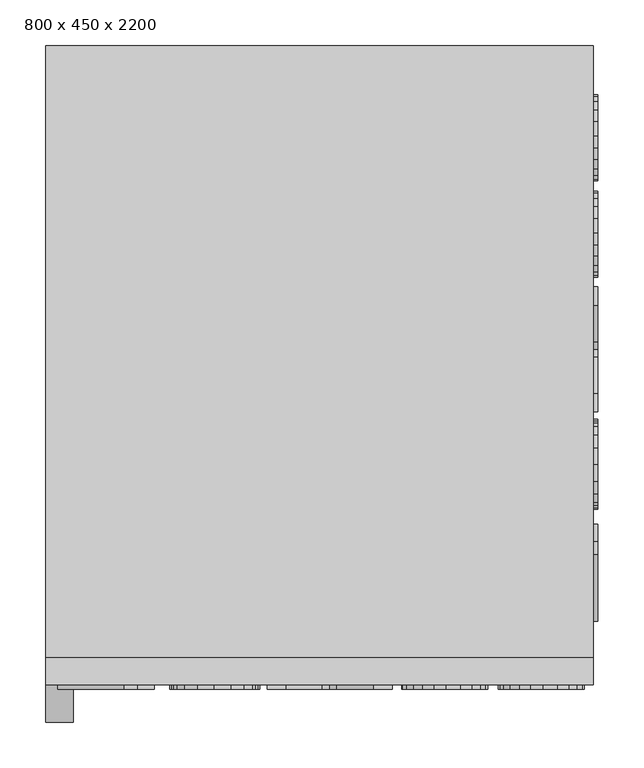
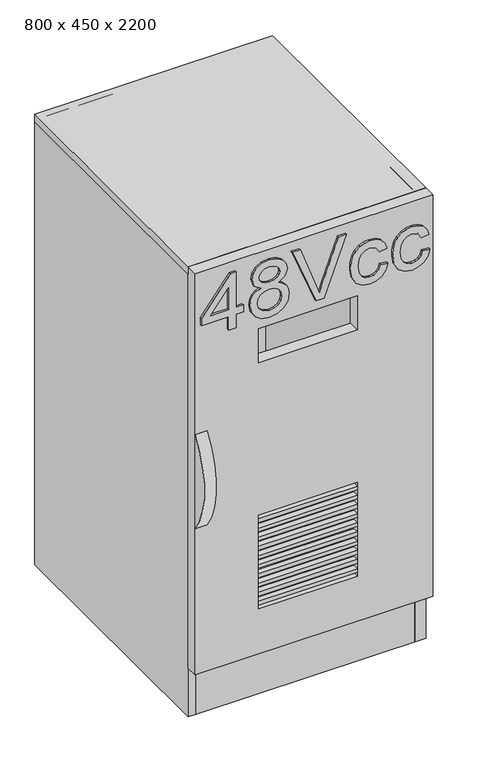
"""IFC4 building model written with IfcOpenShell, lengths in millimetres: furniture geometry, Quadre bateries 48V : 800 x 450 x 2200."""

import ifcopenshell
import ifcopenshell.guid

model = None  # the IFC model being written
_history = None  # IfcOwnerHistory: only IFC2X3 demands one
_inside = {}  # id of a spatial element -> (the spatial element, [elements in it])
_under = {}  # id of a project, library or spatial element -> (it, [spatial elements below it])
_declared = {}  # id of a project -> (the project, [libraries it declares])
_typed = {}  # id of a type object -> (the type object, [elements of that type])
_made_of = {}  # id of a material, layer set ... -> (it, [elements and type objects made of it])


def new_model(schema):
    """Start an empty IFC model of exactly this schema.

    Asked for "IFC4X3", IfcOpenShell would pick the latest addendum, in which some entities
    have other attributes; the version numbers below select the first issue.
    IFC2X3 requires an IfcOwnerHistory on every rooted entity: one is made here for all.
    """
    global model, _history
    if schema == "IFC4X3":
        model = ifcopenshell.file(schema_version=(4, 3, 0, 0))
    else:
        model = ifcopenshell.file(schema=schema)
    _inside.clear()
    _under.clear()
    _declared.clear()
    _typed.clear()
    _made_of.clear()
    _history = None
    if model.schema == "IFC2X3":
        org = make("IfcOrganization", Name="unknown")
        user = make(
            "IfcPersonAndOrganization",
            ThePerson=make("IfcPerson", FamilyName="unknown"),
            TheOrganization=org,
        )
        app = make(
            "IfcApplication",
            ApplicationDeveloper=org,
            Version="unknown",
            ApplicationFullName="unknown",
            ApplicationIdentifier="unknown",
        )
        _history = make(
            "IfcOwnerHistory",
            OwningUser=user,
            OwningApplication=app,
            ChangeAction="ADDED",
            CreationDate=0,
        )
    return model


def make(cls, **values):
    """One entity of the class cls with the attributes given. An attribute that is None is left unset."""
    return model.create_entity(
        cls, **{name: value for name, value in values.items() if value is not None}
    )


def rooted(cls, **values):
    """An entity with a GlobalId (a new one), such as an element, a storey or a relation."""
    return make(cls, GlobalId=ifcopenshell.guid.new(), OwnerHistory=_history, **values)


def si_unit(unit_type, name, prefix=None):
    """IfcSIUnit, for example si_unit("LENGTHUNIT", "METRE", prefix="MILLI")."""
    return make("IfcSIUnit", UnitType=unit_type, Prefix=prefix, Name=name)


def assignment(units):
    """IfcUnitAssignment: the units of a project."""
    return None if units is None else make("IfcUnitAssignment", Units=units)


def point(xyz):
    """IfcCartesianPoint."""
    return None if xyz is None else make("IfcCartesianPoint", Coordinates=xyz)


def direction(xyz):
    """IfcDirection."""
    return None if xyz is None else make("IfcDirection", DirectionRatios=xyz)


def frame(location, z_axis=None, x_axis=None):
    """IfcAxis2Placement3D, a coordinate frame: its origin and axes. An axis left out is left unset."""
    return make(
        "IfcAxis2Placement3D",
        Location=point(location),
        Axis=direction(z_axis),
        RefDirection=direction(x_axis),
    )


def frame_2d(location, x_axis=None):
    """IfcAxis2Placement2D, a coordinate frame in the plane: its origin and x axis."""
    return make(
        "IfcAxis2Placement2D", Location=point(location), RefDirection=direction(x_axis)
    )


def origin():
    """The frame at (0, 0, 0) with its axes left unset."""
    return frame((0.0, 0.0, 0.0))


def origin_with_axes():
    """The frame at (0, 0, 0) with the z axis (0, 0, 1) and the x axis (1, 0, 0) written out."""
    return frame((0.0, 0.0, 0.0), z_axis=(0.0, 0.0, 1.0), x_axis=(1.0, 0.0, 0.0))


def place(relative_to, where):
    """IfcLocalPlacement: puts the frame where relative to a parent placement (None: the world)."""
    return make(
        "IfcLocalPlacement", PlacementRelTo=relative_to, RelativePlacement=where
    )


def context(
    kind, dimensions, precision=None, world=None, true_north=None, identifier=None
):
    """IfcGeometricRepresentationContext, for example the 3D "Model" context."""
    return make(
        "IfcGeometricRepresentationContext",
        ContextIdentifier=identifier,
        ContextType=kind,
        CoordinateSpaceDimension=dimensions,
        Precision=precision,
        WorldCoordinateSystem=world,
        TrueNorth=true_north,
    )


def project(units=None, contexts=None):
    """IfcProject with its units and contexts."""
    return rooted(
        "IfcProject",
        Name="project",
        RepresentationContexts=contexts,
        UnitsInContext=assignment(units),
    )


def spatial(cls, under=None, at=None, **own):
    """A site, building, storey or space (cls), placed at a placement, below another one or the project."""
    s = rooted(cls, ObjectPlacement=at, **own)
    if under is not None:
        _under.setdefault(under.id(), (under, []))[1].append(s)
    return s


def polyline(points):
    """IfcPolyline through the points."""
    return make("IfcPolyline", Points=[point(p) for p in points])


def circle_curve(where, radius):
    """IfcCircle in the frame where."""
    return make("IfcCircle", Position=where, Radius=radius)


def trimmed(basis, trim1, trim2, sense, master):
    """IfcTrimmedCurve: the piece of a basis curve between two trims."""
    return make(
        "IfcTrimmedCurve",
        BasisCurve=basis,
        Trim1=trim1,
        Trim2=trim2,
        SenseAgreement=sense,
        MasterRepresentation=master,
    )


def segment(curve, same_sense, transition):
    """IfcCompositeCurveSegment."""
    return make(
        "IfcCompositeCurveSegment",
        Transition=transition,
        SameSense=same_sense,
        ParentCurve=curve,
    )


def composite_curve(segments, self_intersect=None):
    """IfcCompositeCurve: segments joined end to end."""
    return make("IfcCompositeCurve", Segments=segments, SelfIntersect=self_intersect)


def outline(outer, holes=None, kind="AREA"):
    """IfcArbitraryClosedProfileDef: a profile drawn as a closed curve; with holes, ...WithVoids."""
    if holes is None:
        return make("IfcArbitraryClosedProfileDef", ProfileType=kind, OuterCurve=outer)
    return make(
        "IfcArbitraryProfileDefWithVoids",
        ProfileType=kind,
        OuterCurve=outer,
        InnerCurves=holes,
    )


def extrude(swept, where, along, depth):
    """IfcExtrudedAreaSolid: the profile swept, set in the frame where, extruded along a direction by depth."""
    return make(
        "IfcExtrudedAreaSolid",
        SweptArea=swept,
        Position=where,
        ExtrudedDirection=direction(along),
        Depth=depth,
    )


def shape(context_of_items, identifier, shape_type, items):
    """IfcShapeRepresentation: the items that make up one representation, for example the "Body"."""
    return make(
        "IfcShapeRepresentation",
        ContextOfItems=context_of_items,
        RepresentationIdentifier=identifier,
        RepresentationType=shape_type,
        Items=items,
    )


def source(mapping_origin, context_of_items, identifier, shape_type, items):
    """IfcRepresentationMap: a shape defined once, which mapped items show again and again."""
    return make(
        "IfcRepresentationMap",
        MappingOrigin=mapping_origin,
        MappedRepresentation=shape(context_of_items, identifier, shape_type, items),
    )


def transform(
    local_origin,
    x_axis=None,
    y_axis=None,
    z_axis=None,
    scale=None,
    scale2=None,
    scale3=None,
    uniform=True,
):
    """IfcCartesianTransformationOperator3D, or its non-uniform kind. x_axis, y_axis, z_axis: its Axis1, 2, 3."""
    if uniform:
        return make(
            "IfcCartesianTransformationOperator3D",
            Axis1=direction(x_axis),
            Axis2=direction(y_axis),
            LocalOrigin=point(local_origin),
            Scale=scale,
            Axis3=direction(z_axis),
        )
    return make(
        "IfcCartesianTransformationOperator3DnonUniform",
        Axis1=direction(x_axis),
        Axis2=direction(y_axis),
        LocalOrigin=point(local_origin),
        Scale=scale,
        Axis3=direction(z_axis),
        Scale2=scale2,
        Scale3=scale3,
    )


def mapped(mapping_source, mapping_target):
    """IfcMappedItem: shows the shape of a source again, moved by a transform."""
    return make(
        "IfcMappedItem", MappingSource=mapping_source, MappingTarget=mapping_target
    )


def made_of(thing, what):
    """Note that an element or type object is made of a material, layer set ...; save() writes the relation."""
    if what is not None:
        _made_of.setdefault(what.id(), (what, []))[1].append(thing)
    return thing


def element(
    cls,
    number,
    at=None,
    inside=None,
    cuts=None,
    type_object=None,
    material=None,
    context=None,
    identifier="Body",
    shape_type=None,
    held_by="IfcProductDefinitionShape",
    body=None,
    shapes=None,
    **own,
):
    """One element of the class cls, such as IfcWall. Its Tag is "e" and its number.

    at: its placement. inside: the storey or other place that contains it. cuts: it is an
    opening in that element (IfcRelVoidsElement). A single representation is given by context,
    identifier, shape_type and body (its items); several are given by shapes. held_by: the class
    of the entity that holds the representations. save() writes the other relations.
    """
    e = rooted(cls, Tag="e%d" % number, ObjectPlacement=at, **own)
    if body is not None:
        shapes = [shape(context, identifier, shape_type, body)]
    if shapes is not None:
        e.Representation = make(held_by, Representations=shapes)
    if inside is not None:
        _inside.setdefault(inside.id(), (inside, []))[1].append(e)
    if cuts is not None:
        rooted(
            "IfcRelVoidsElement", RelatingBuildingElement=cuts, RelatedOpeningElement=e
        )
    if type_object is not None:
        _typed.setdefault(type_object.id(), (type_object, []))[1].append(e)
    return made_of(e, material)


def aggregate(whole, parts):
    """IfcRelAggregates: a whole, such as a stair, and the parts it consists of."""
    return rooted("IfcRelAggregates", RelatingObject=whole, RelatedObjects=parts)


def save(model, path):
    """Write the relations noted so far, then the file.

    IfcRelAggregates (storeys below a building ...), IfcRelContainedInSpatialStructure (elements
    in a storey), IfcRelDefinesByType, IfcRelAssociatesMaterial and IfcRelDeclares: one each for
    every whole, place, type object, material and project.
    """
    for whole, parts in _under.values():
        aggregate(whole, parts)
    for where, things in _inside.values():
        rooted(
            "IfcRelContainedInSpatialStructure",
            RelatedElements=things,
            RelatingStructure=where,
        )
    for kind, things in _typed.values():
        rooted("IfcRelDefinesByType", RelatedObjects=things, RelatingType=kind)
    for what, things in _made_of.values():
        rooted("IfcRelAssociatesMaterial", RelatedObjects=things, RelatingMaterial=what)
    for by, libraries in _declared.values():
        rooted("IfcRelDeclares", RelatingContext=by, RelatedDefinitions=libraries)
    model.write(path)


def furniture_800_x_450_x_2200_920462bc(model_context):
    return source(origin(), model_context, "Body", "SweptSolid", [
        extrude(outline(polyline([(1024.0674796, -310.1254016), (1024.0674796, -291.2898435), (1059.3841511, -291.2898435), (1059.3841511, -272.4542853), (1078.2197093, -272.4542853), (1078.2197093, -291.2898435), (1172.3975, -291.2898435), (1172.3975, -305.4165121), (1078.2197093, -378.4042999), (1059.3841511, -378.4042999), (1059.3841511, -310.1254016), (1024.0674796, -310.1254016)]), holes=[polyline([(1078.2197093, -310.1254016), (1078.2197093, -355.2277342), (1136.4186409, -310.1254016), (1078.2197093, -310.1254016)])]), frame((0.0, -5.0, 0.0), z_axis=(0.0, 1.0, 0.0), x_axis=(0.0, 0.0, 1.0)), (0.0, 0.0, 1.0), 5.0),
        extrude(outline(polyline([(1107.0616577, -228.5291751), (1101.8193393, -240.1910343), (1093.3764475, -248.8362612), (1082.1192584, -254.1889443), (1068.4340482, -255.9731719), (1050.1089263, -252.5702635), (1035.0855453, -242.3615381), (1025.0561625, -226.5977946), (1021.7130348, -206.5298318), (1025.0423669, -186.4618689), (1035.030363, -170.6981254), (1049.9111898, -160.4894001), (1067.9190134, -157.0864916), (1081.0937874, -158.8017414), (1092.2911956, -163.9474908), (1101.0881738, -172.3857841), (1107.0616577, -183.9786655), (1118.7051228, -167.295217), (1136.4554291, -161.7953812), (1151.2442853, -164.8855899), (1163.6051204, -174.1562162), (1171.9652387, -188.494417), (1174.7519448, -206.7873492), (1172.0296181, -224.9699168), (1163.8626378, -239.1241766), (1151.6949408, -248.2292559), (1136.9704639, -251.2642824), (1118.7603051, -245.6908702), (1107.0616577, -228.5291751)]), holes=[polyline([(1136.4186409, -232.4287242), (1143.8682513, -230.7318685), (1150.1774275, -225.6413014), (1154.4816469, -217.4697226), (1155.9163867, -206.5298318), (1154.4494572, -195.6589188), (1150.0486688, -187.4735444), (1143.4957708, -182.3415906), (1135.5725123, -180.6309393), (1127.9389609, -182.2864083), (1121.5929965, -187.2528152), (1117.3163683, -195.327825), (1115.8908256, -206.3091026), (1117.3255654, -217.5524961), (1121.6297847, -225.751666), (1128.1964783, -230.7594597), (1136.4186409, -232.4287242)]), polyline([(1069.0962358, -237.1376138), (1080.0867104, -235.1464525), (1089.0722281, -229.1729686), (1095.0595076, -219.6494234), (1097.0552674, -207.0080784), (1095.0319165, -194.040238), (1088.9618635, -184.1993947), (1079.8016019, -177.991386), (1068.5076246, -175.9220498), (1057.4021869, -177.9270067), (1048.4396618, -183.9418773), (1042.5213602, -193.5619914), (1040.548593, -206.382679), (1044.3009893, -222.8637924), (1054.9143849, -233.9922227), (1069.0962358, -237.1376138)])]), frame((0.0, -5.0, 0.0), z_axis=(0.0, 1.0, 0.0), x_axis=(0.0, 0.0, 1.0)), (0.0, 0.0, 1.0), 5.0),
        extrude(outline(polyline([(1024.0674796, -89.0283225), (1024.0674796, -69.567365), (1174.7519448, -12.1409855), (1174.7519448, -32.3009189), (1066.189968, -72.5472091), (1041.7258154, -80.5670366), (1066.189968, -88.6972287), (1174.7519448, -128.8331544), (1174.7519448, -148.9930877), (1024.0674796, -89.0283225)])), frame((0.0, -5.0, 0.0), z_axis=(0.0, 1.0, 0.0), x_axis=(0.0, 0.0, 1.0)), (0.0, 0.0, 1.0), 5.0),
        extrude(outline(polyline([(1064.0930407, 73.6490957), (1053.6543891, 70.4347268), (1046.3243403, 64.6175928), (1041.9925298, 56.6207579), (1040.548593, 46.8672865), (1042.861651, 34.8513408), (1049.8008252, 25.3645839), (1061.853559, 19.1979619), (1079.5072963, 17.1424213), (1096.9265087, 19.2439472), (1108.9378559, 25.5485249), (1115.9184167, 35.2100258), (1118.2452704, 47.3823213), (1113.5179867, 62.5574536), (1099.4097122, 71.294651), (1101.764157, 90.1302091), (1116.7553483, 85.0028538), (1127.8837786, 75.8747818), (1134.781566, 63.1506633), (1137.0808285, 47.2351685), (1135.4069654, 33.9132417), (1130.3853762, 21.6121875), (1122.0114623, 11.3298858), (1110.2806252, 4.0642164), (1095.7538849, -0.2537986), (1078.9922615, -1.6931369), (1054.5419044, 1.6775819), (1036.5202851, 11.7897383), (1025.4148474, 27.4569127), (1021.7130348, 47.4926859), (1024.3663837, 63.8082524), (1032.3264304, 77.3647039), (1044.9861695, 87.2331384), (1061.7385959, 92.4846539), (1064.0930407, 73.6490957)])), frame((0.0, -5.0, 0.0), z_axis=(0.0, 1.0, 0.0), x_axis=(0.0, 0.0, 1.0)), (0.0, 0.0, 1.0), 5.0),
        extrude(outline(polyline([(1064.0930407, 179.5991104), (1053.6543891, 176.3847414), (1046.3243403, 170.5676074), (1041.9925298, 162.5707725), (1040.548593, 152.8173011), (1042.861651, 140.8013554), (1049.8008252, 131.3145985), (1061.853559, 125.1479765), (1079.5072963, 123.0924359), (1096.9265087, 125.1939618), (1108.9378559, 131.4985395), (1115.9184167, 141.1600404), (1118.2452704, 153.3323359), (1113.5179867, 168.5074682), (1099.4097122, 177.2446656), (1101.764157, 196.0802237), (1116.7553483, 190.9528684), (1127.8837786, 181.8247964), (1134.781566, 169.1006779), (1137.0808285, 153.1851831), (1135.4069654, 139.8632564), (1130.3853762, 127.5622021), (1122.0114623, 117.2799004), (1110.2806252, 110.014231), (1095.7538849, 105.6962161), (1078.9922615, 104.2568777), (1054.5419044, 107.6275965), (1036.5202851, 117.7397529), (1025.4148474, 133.4069273), (1021.7130348, 153.4427005), (1024.3663837, 169.758267), (1032.3264304, 183.3147185), (1044.9861695, 193.183153), (1061.7385959, 198.4346685), (1064.0930407, 179.5991104)])), frame((0.0, -5.0, 0.0), z_axis=(0.0, 1.0, 0.0), x_axis=(0.0, 0.0, 1.0)), (0.0, 0.0, 1.0), 5.0),
        extrude(outline(polyline([(137.9670995, 615.0200147), (137.9670995, 650.3366862), (69.6882012, 650.3366862), (69.6882012, 669.1722443), (142.675989, 763.3500351), (156.8026576, 763.3500351), (156.8026576, 669.1722443), (175.6382158, 669.1722443), (175.6382158, 650.3366862), (156.8026576, 650.3366862), (156.8026576, 615.0200147), (137.9670995, 615.0200147)]), holes=[polyline([(137.9670995, 669.1722443), (137.9670995, 727.371176), (92.8647669, 669.1722443), (137.9670995, 669.1722443)])]), frame((208.3182922, 0.0, 0.0), z_axis=(1.0, 0.0, 0.0), x_axis=(0.0, 1.0, 0.0)), (0.0, 0.0, 1.0), 5.0),
        extrude(outline(polyline([(219.563326, 698.0141928), (202.4016309, 709.7128402), (196.8282187, 727.922999), (199.8632452, 742.6474758), (208.9683246, 754.8151728), (223.1225843, 762.9821531), (241.3051519, 765.7044799), (259.5980841, 762.9177738), (273.9362849, 754.5576554), (283.2069112, 742.1968204), (286.2971199, 727.4079642), (280.7972841, 709.6576579), (264.1138356, 698.0141928), (275.706717, 692.0407089), (284.1450103, 683.2437307), (289.2907597, 672.0463224), (291.0060095, 658.8715485), (287.603101, 640.8637248), (277.3943757, 625.9828981), (261.6306322, 615.9949019), (241.5626693, 612.6655699), (221.4947065, 616.0086975), (205.730963, 626.0380804), (195.5222376, 641.0614614), (192.1193292, 659.3865833), (193.9035569, 673.0717935), (199.2562399, 684.3289825), (207.9014668, 692.7718743), (219.563326, 698.0141928)]), holes=[polyline([(215.6637769, 727.371176), (217.3330414, 719.1490134), (222.3408351, 712.5823198), (230.540005, 708.2781004), (241.7833985, 706.8433606), (252.7646761, 708.2689034), (260.8396859, 712.5455316), (265.8060928, 718.891496), (267.4615618, 726.5250474), (265.7509105, 734.4483059), (260.6189567, 741.0012039), (252.4335823, 745.4019923), (241.5626693, 746.8689217), (230.6227785, 745.4341819), (222.4511997, 741.1299626), (217.3606326, 734.8207864), (215.6637769, 727.371176)]), polyline([(210.9548873, 660.0487709), (214.1002784, 645.8669199), (225.2287087, 635.2535244), (241.7098221, 631.501128), (254.5305097, 633.4738952), (264.1506238, 639.3921968), (270.1654945, 648.3547219), (272.1704513, 659.4601597), (270.1011151, 670.7541369), (263.8931064, 679.9143986), (254.0522631, 685.9844515), (241.0844227, 688.0078025), (228.4430777, 686.0120427), (218.9195325, 680.0247632), (212.9460486, 671.0392455), (210.9548873, 660.0487709)])]), frame((208.3182922, 0.0, 0.0), z_axis=(1.0, 0.0, 0.0), x_axis=(0.0, 1.0, 0.0)), (0.0, 0.0, 1.0), 5.0),
        extrude(outline(polyline([(359.0641786, 615.0200147), (299.0994134, 765.7044799), (319.2593467, 765.7044799), (359.3952724, 657.1425031), (367.5254645, 632.6783504), (375.545292, 657.1425031), (415.7915822, 765.7044799), (435.9515156, 765.7044799), (378.5251361, 615.0200147), (359.0641786, 615.0200147)])), frame((208.3182922, 0.0, 0.0), z_axis=(1.0, 0.0, 0.0), x_axis=(0.0, 1.0, 0.0)), (0.0, 0.0, 1.0), 5.0),
        extrude(outline(polyline([(521.7415969, 655.0455757), (540.577155, 652.691131), (535.3256395, 635.9387046), (525.457205, 623.2789654), (511.9007535, 615.3189188), (495.585187, 612.6655699), (475.5494138, 616.3673825), (459.8822394, 627.4728202), (449.770083, 645.4944394), (446.3993642, 669.9447965), (447.8387025, 686.7064199), (452.1567175, 701.2331602), (459.4223869, 712.9639973), (469.7046886, 721.3379113), (482.0057428, 726.3595005), (495.3276696, 728.0333636), (511.2431644, 725.7341011), (523.9672829, 718.8363137), (533.0953549, 707.7078833), (538.2227102, 692.716692), (519.3871521, 690.3622473), (510.6499547, 704.4705218), (495.4748224, 709.1978054), (483.3025269, 706.8709518), (473.641026, 699.8903909), (467.3364483, 687.8790438), (465.2349224, 670.4598313), (467.290463, 652.8060941), (473.457085, 640.7533602), (482.9438419, 633.8141861), (494.9597876, 631.501128), (504.713259, 632.9450649), (512.7100939, 637.2768754), (518.5272279, 644.6069241), (521.7415969, 655.0455757)])), frame((208.3182922, 0.0, 0.0), z_axis=(1.0, 0.0, 0.0), x_axis=(0.0, 1.0, 0.0)), (0.0, 0.0, 1.0), 5.0),
        extrude(outline(polyline([(627.6916115, 655.0455757), (646.5271696, 652.691131), (641.2756541, 635.9387046), (631.4072196, 623.2789654), (617.8507681, 615.3189188), (601.5352016, 612.6655699), (581.4994284, 616.3673825), (565.832254, 627.4728202), (555.7200976, 645.4944394), (552.3493789, 669.9447965), (553.7887172, 686.7064199), (558.1067321, 701.2331602), (565.3724015, 712.9639973), (575.6547032, 721.3379113), (587.9557575, 726.3595005), (601.2776842, 728.0333636), (617.193179, 725.7341011), (629.9172975, 718.8363137), (639.0453695, 707.7078833), (644.1727248, 692.716692), (625.3371667, 690.3622473), (616.5999693, 704.4705218), (601.424837, 709.1978054), (589.2525415, 706.8709518), (579.5910406, 699.8903909), (573.2864629, 687.8790438), (571.184937, 670.4598313), (573.2404777, 652.8060941), (579.4070996, 640.7533602), (588.8938565, 633.8141861), (600.9098022, 631.501128), (610.6632736, 632.9450649), (618.6601085, 637.2768754), (624.4772425, 644.6069241), (627.6916115, 655.0455757)])), frame((208.3182922, 0.0, 0.0), z_axis=(1.0, 0.0, 0.0), x_axis=(0.0, 1.0, 0.0)), (0.0, 0.0, 1.0), 5.0),
        extrude(outline(polyline([(208.3182922, 30.0), (-371.6817078, 30.0), (-371.6817078, 50.0), (208.3182922, 50.0), (208.3182922, 30.0)])), origin_with_axes(), (0.0, 0.0, 1.0), 130.0),
        extrude(outline(composite_curve([segment(trimmed(circle_curve(frame_2d((164.9755874, 645.0)), 206.9829568), [point((0.0, 520.0))], [point((0.0, 770.0))], False, "CARTESIAN"), True, "CONTINUOUS"), segment(polyline([(0.0, 770.0), (0.0, 520.0)]), True, "CONTINUOUS")], self_intersect=False)), frame((-391.6817078, 0.0, 0.0), z_axis=(1.0, 0.0, 0.0), x_axis=(0.0, 1.0, 0.0)), (0.0, 0.0, 1.0), 30.0),
        extrude(outline(polyline([(18.4386154, 0.0), (-231.5613846, 0.0), (-231.5613846, 15.0), (18.4386154, 15.0), (18.4386154, 0.0)])), frame((0.0, 0.0, 284.4444444), z_axis=(0.0, 0.0, 1.0), x_axis=(1.0, 0.0, 0.0)), (0.0, 0.0, 1.0), 10.0),
        extrude(outline(polyline([(18.4386154, 0.0), (-231.5613846, 0.0), (-231.5613846, 15.0), (18.4386154, 15.0), (18.4386154, 0.0)])), frame((0.0, 0.0, 308.8888889), z_axis=(0.0, 0.0, 1.0), x_axis=(1.0, 0.0, 0.0)), (0.0, 0.0, 1.0), 10.0),
        extrude(outline(polyline([(18.4386154, 0.0), (-231.5613846, 0.0), (-231.5613846, 15.0), (18.4386154, 15.0), (18.4386154, 0.0)])), frame((0.0, 0.0, 333.3333333), z_axis=(0.0, 0.0, 1.0), x_axis=(1.0, 0.0, 0.0)), (0.0, 0.0, 1.0), 10.0),
        extrude(outline(polyline([(18.4386154, 0.0), (-231.5613846, 0.0), (-231.5613846, 15.0), (18.4386154, 15.0), (18.4386154, 0.0)])), frame((0.0, 0.0, 357.7777778), z_axis=(0.0, 0.0, 1.0), x_axis=(1.0, 0.0, 0.0)), (0.0, 0.0, 1.0), 10.0),
        extrude(outline(polyline([(18.4386154, 0.0), (-231.5613846, 0.0), (-231.5613846, 15.0), (18.4386154, 15.0), (18.4386154, 0.0)])), frame((0.0, 0.0, 382.2222222), z_axis=(0.0, 0.0, 1.0), x_axis=(1.0, 0.0, 0.0)), (0.0, 0.0, 1.0), 10.0),
        extrude(outline(polyline([(18.4386154, 0.0), (-231.5613846, 0.0), (-231.5613846, 15.0), (18.4386154, 15.0), (18.4386154, 0.0)])), frame((0.0, 0.0, 406.6666667), z_axis=(0.0, 0.0, 1.0), x_axis=(1.0, 0.0, 0.0)), (0.0, 0.0, 1.0), 10.0),
        extrude(outline(polyline([(18.4386154, 0.0), (-231.5613846, 0.0), (-231.5613846, 15.0), (18.4386154, 15.0), (18.4386154, 0.0)])), frame((0.0, 0.0, 431.1111111), z_axis=(0.0, 0.0, 1.0), x_axis=(1.0, 0.0, 0.0)), (0.0, 0.0, 1.0), 10.0),
        extrude(outline(polyline([(18.4386154, 0.0), (-231.5613846, 0.0), (-231.5613846, 15.0), (18.4386154, 15.0), (18.4386154, 0.0)])), frame((0.0, 0.0, 455.5555556), z_axis=(0.0, 0.0, 1.0), x_axis=(1.0, 0.0, 0.0)), (0.0, 0.0, 1.0), 10.0),
        extrude(outline(polyline([(18.4386154, 0.0), (-231.5613846, 0.0), (-231.5613846, 15.0), (18.4386154, 15.0), (18.4386154, 0.0)])), frame((0.0, 0.0, 260.0), z_axis=(0.0, 0.0, 1.0), x_axis=(1.0, 0.0, 0.0)), (0.0, 0.0, 1.0), 10.0),
        extrude(outline(polyline([(18.4386154, 0.0), (-231.5613846, 0.0), (-231.5613846, 15.0), (18.4386154, 15.0), (18.4386154, 0.0)])), frame((0.0, 0.0, 480.0), z_axis=(0.0, 0.0, 1.0), x_axis=(1.0, 0.0, 0.0)), (0.0, 0.0, 1.0), 10.0),
        extrude(outline(polyline([(208.3182922, 700.0), (208.3182922, 30.0), (-391.6817078, 30.0), (-391.6817078, 700.0), (208.3182922, 700.0)])), frame((0.0, 0.0, 1180.0), z_axis=(0.0, 0.0, 1.0), x_axis=(1.0, 0.0, 0.0)), (0.0, 0.0, 1.0), 20.0),
        extrude(outline(polyline([(1200.0, 208.3182922), (1200.0, -391.6817078), (130.0, -391.6817078), (130.0, 208.3182922), (1200.0, 208.3182922)]), holes=[polyline([(500.0, 18.4386154), (250.0, 18.4386154), (250.0, -231.5613846), (500.0, -231.5613846), (500.0, 18.4386154)]), polyline([(997.0951027, 18.4386154), (906.4957346, 18.4386154), (906.4957346, -231.5613846), (997.0951027, -231.5613846), (997.0951027, 18.4386154)])]), frame((0.0, 0.0, 0.0), z_axis=(0.0, 1.0, 0.0), x_axis=(0.0, 0.0, 1.0)), (0.0, 0.0, 1.0), 30.0),
        extrude(outline(polyline([(208.3182922, 700.0), (208.3182922, 30.0), (180.1105065, 30.0), (180.1105065, 681.2803595), (-371.6817078, 681.2803595), (-371.6817078, 30.0), (-391.6817078, 30.0), (-391.6817078, 700.0), (208.3182922, 700.0)])), origin_with_axes(), (0.0, 0.0, 1.0), 1200.0),
    ])


if __name__ == "__main__":
    model = new_model("IFC4")
    model_context = context("Model", 3, world=origin())
    ifc_project = project(units=[si_unit("LENGTHUNIT", "METRE", prefix="MILLI")], contexts=[model_context])
    site = spatial("IfcSite", under=ifc_project)
    building = spatial("IfcBuilding", under=site)
    placement = place(None, origin())
    furniture_800_x_450_x_2200_shape = furniture_800_x_450_x_2200_920462bc(model_context)
    element("IfcFurniture", 1, ObjectType="Quadre bateries 48V : 800 x 450 x 2200", at=placement, inside=building, context=model_context, shape_type="MappedRepresentation", body=[
        mapped(furniture_800_x_450_x_2200_shape, transform((0.0, 0.0, 0.0), x_axis=(1.0, 0.0, 0.0), y_axis=(0.0, 1.0, 0.0), z_axis=(0.0, 0.0, 1.0))),
    ])
    save(model, "model.ifc")
